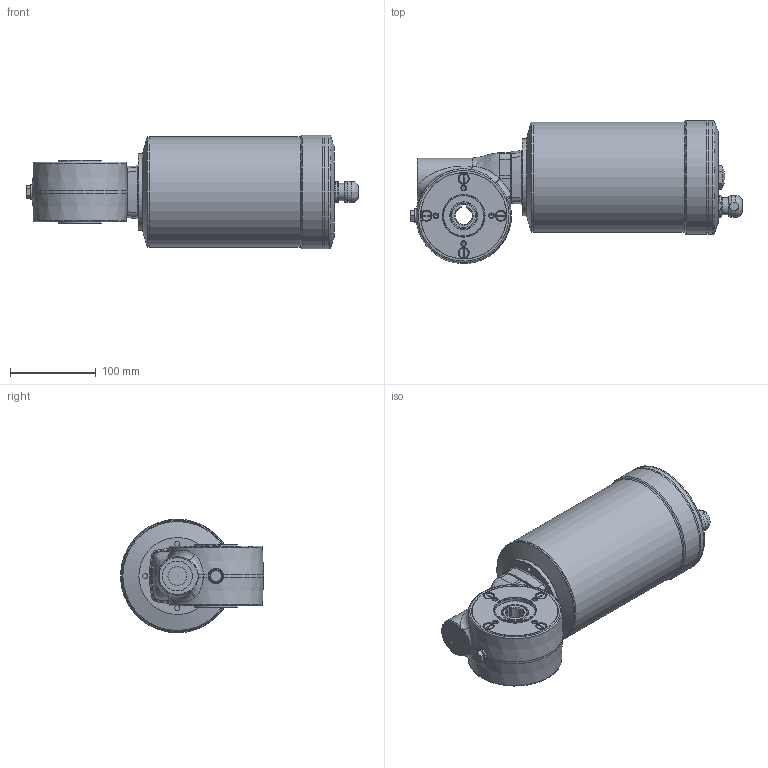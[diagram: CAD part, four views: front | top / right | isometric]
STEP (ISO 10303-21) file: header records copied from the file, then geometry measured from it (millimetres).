
FILE_DESCRIPTION( ( 'Unknown' ), '1' );
FILE_NAME( 'E:/services/configuratordownloads/customers/CLEANGEARTECH/VFN/download/3BB83782B6F24A11356CCC87BA36/STEP/3BB83782B6F24A11356CCC87BA36.3d.stp', 'Unknown', ( 'Unknown' ), ( 'Unknown' ), 'PSStep 10.1', 'Unknown', ' ' );
FILE_SCHEMA( ( 'AUTOMOTIVE_DESIGN { 1 0 10303 214 1 1 1 1 }' ) );
Length unit declared in the file: millimetre
Products named in the file (1): N458800
Bounding box: 388.3 x 167.28 x 133 mm (x, y, z)
Volume: 3745195.8 mm3; surface area: 190371.3 mm2
Topology: 1 solids, 11 shells, 448 faces, 1074 edges, 680 vertices
Faces by surface type: plane 160, cylinder 115, cone 92, bspline 52, torus 28, sphere 1
Full cylindrical faces by diameter (mm): 3.242 x2, 4.134 x8, 4.917 x12, 6 x8, 6.5 x8, 7 x1, 10 x4, 10.5 x4, 11 x1, 13.4 x1, 16.662 x1, 17 x1, 18 x1, 20 x1, 22 x1, 25 x1, 32.5 x2, 35 x1, 40 x1, 47 x2, 50 x2, 52 x1, 60 x1, 90 x1, 101 x1, 128.98 x1, 129 x2, 132.98 x2, 133 x3
Entity records: 21266 total; most frequent: CARTESIAN_POINT 8897, DIRECTION 1787, ORIENTED_EDGE 1614, EDGE_CURVE 807, AXIS2_PLACEMENT_3D 786, EDGE_LOOP 654, VERTEX_POINT 590, FACE_OUTER_BOUND 537
